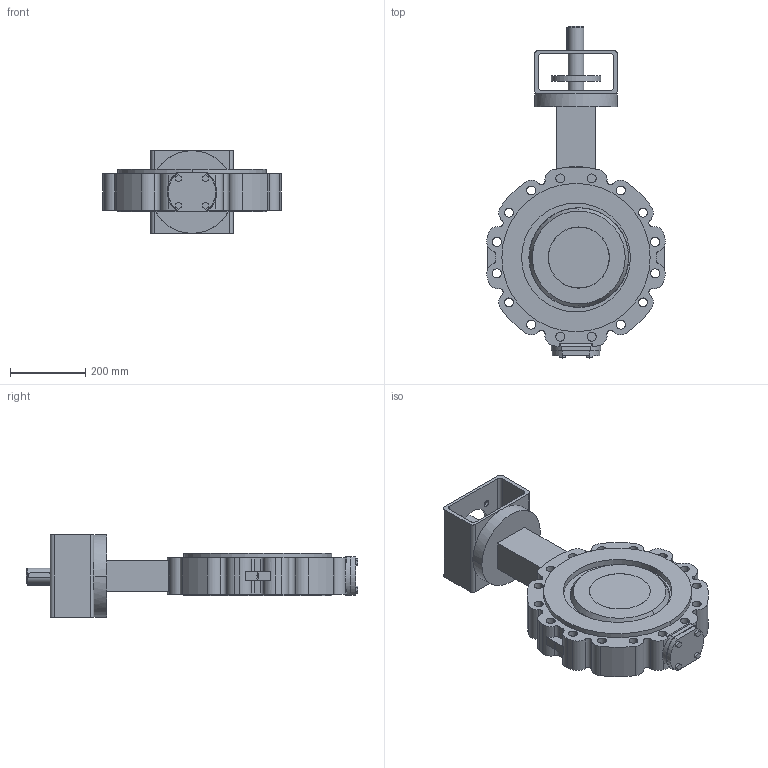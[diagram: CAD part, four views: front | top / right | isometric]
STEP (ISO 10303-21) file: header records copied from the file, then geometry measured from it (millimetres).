
FILE_DESCRIPTION( ( '' ), '1' );
FILE_NAME( 'F:/DE-SHS/TB/OR/04-Sonstiges/daten/files_3d/018_ZETRIX-PN10_freiesWellende/c000006373.stp', '2016-09-01T11:05:14', ( '' ), ( '' ), ' ', ' ', ' ' );
FILE_SCHEMA( ( 'CONFIG_CONTROL_DESIGN' ) );
Length unit declared in the file: millimetre
Products named in the file (1): 1
Bounding box: 475.69 x 884.4 x 220 mm (x, y, z)
Volume: 18695116.3 mm3; surface area: 1207991 mm2
Topology: 1 solids, 1 shells, 292 faces, 776 edges, 516 vertices
Faces by surface type: cylinder 169, plane 115, sphere 4, cone 4
Entity records: 10052 total; most frequent: CARTESIAN_POINT 2325, DIRECTION 1706, ORIENTED_EDGE 1552, EDGE_CURVE 776, AXIS2_PLACEMENT_3D 665, VERTEX_POINT 516, LINE 376, VECTOR 376
